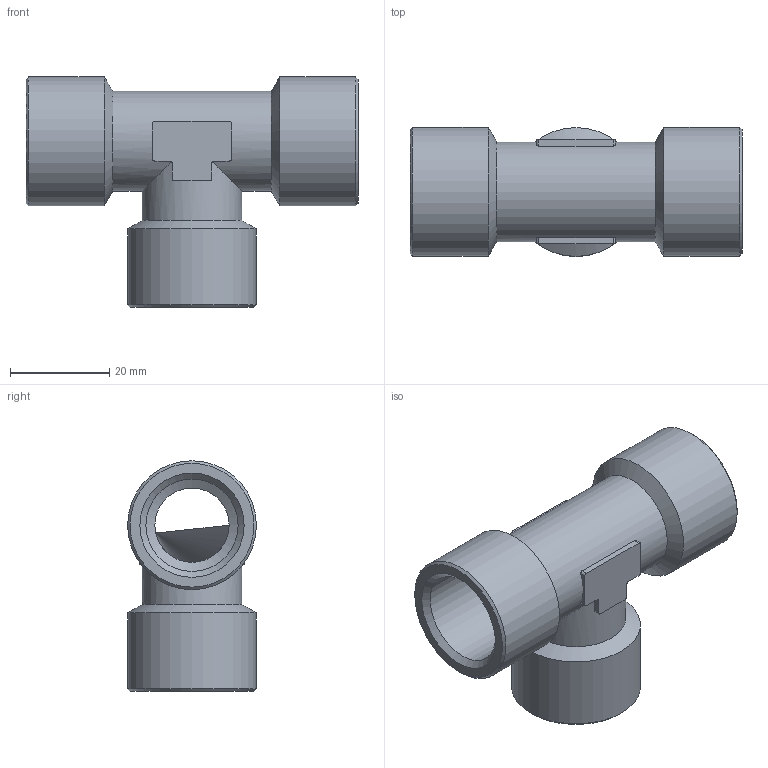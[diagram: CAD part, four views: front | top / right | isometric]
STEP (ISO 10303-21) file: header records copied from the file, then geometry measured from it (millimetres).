
FILE_DESCRIPTION(/* description */ (''),/* implementation_level */ '2;1');
FILE_NAME(/* name */ '40006_111_G12_27.09.16',/* time_stamp */ '2016-09-27T10:44:12+02:00',/* author */ (''),/* organization */ (''),/* preprocessor_version */ 'ST-DEVELOPER v16.5',/* originating_system */ 'HiCAD 2016 2101.0 Build 254',/* authorisation */ '');
FILE_SCHEMA (('AUTOMOTIVE_DESIGN { 1 0 10303 214 1 1 1 1 }'));
Length unit declared in the file: millimetre
Products named in the file (2): Root; 40006
Assembly tree (1 placements, depth 2):
  Root
    40006
Bounding box: 67 x 26 x 46.5 mm (x, y, z)
Volume: 18792.3 mm3; surface area: 12505.6 mm2
Topology: 1 solids, 1 shells, 59 faces, 157 edges, 99 vertices
Faces by surface type: cylinder 26, plane 21, cone 12
Full cylindrical faces by diameter (mm): 15 x2, 18.631 x3, 20.1 x2, 26 x3
Entity records: 5585 total; most frequent: CARTESIAN_POINT 2944, DIRECTION 280, PRESENTATION_STYLE_ASSIGNMENT 257, COLOUR_RGB 257, DRAUGHTING_PRE_DEFINED_CURVE_FONT 256, CURVE_STYLE 256, OVER_RIDING_STYLED_ITEM 256, ORIENTED_EDGE 256
